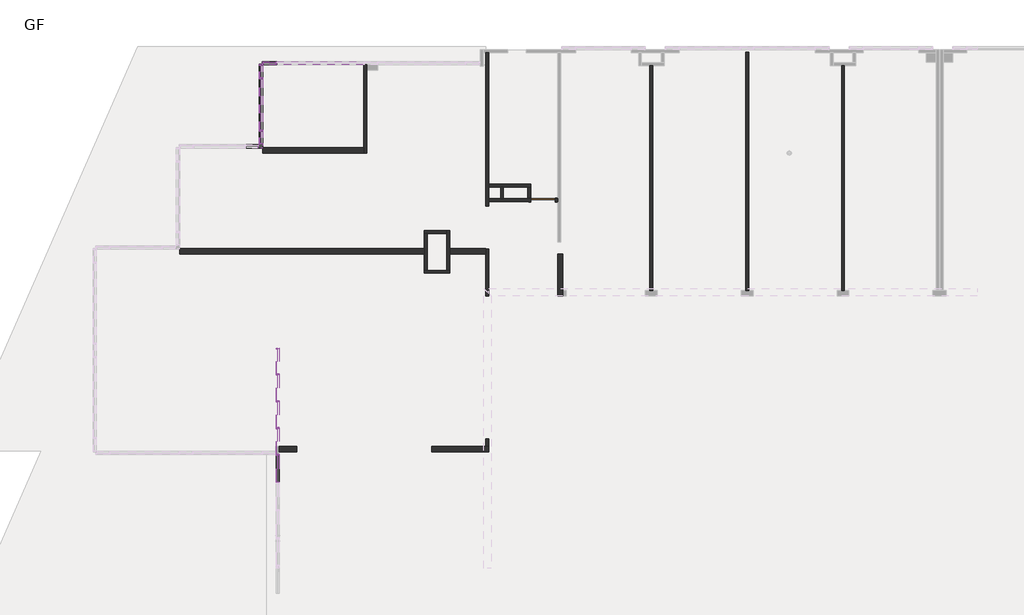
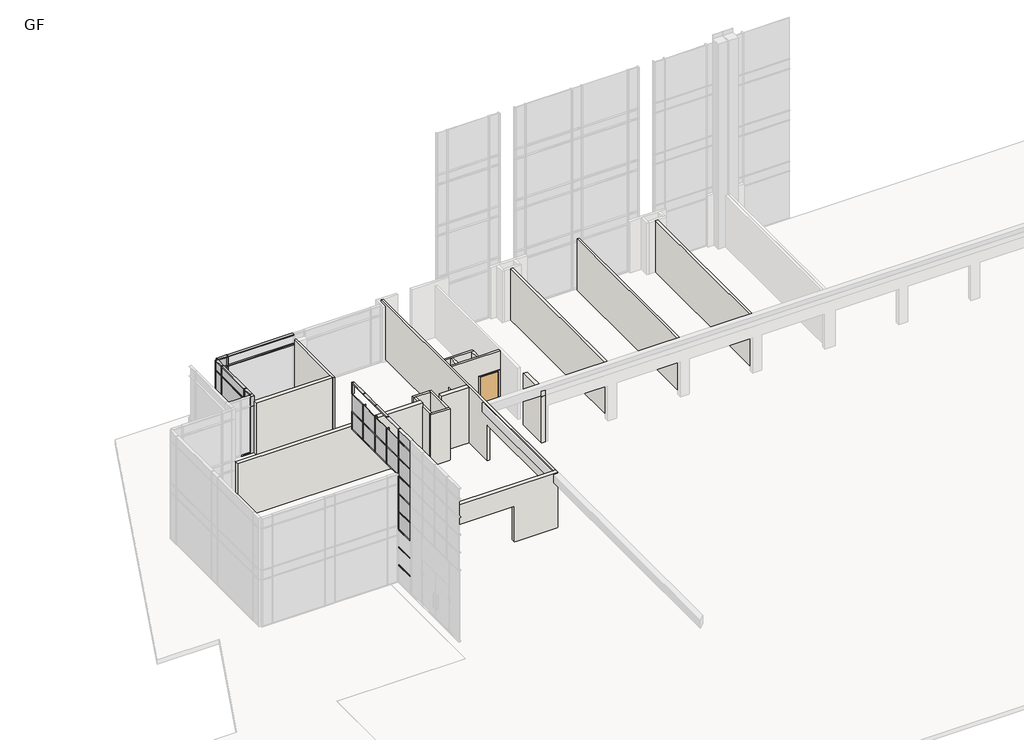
# One storey, part 15 of 23: 57 members, 22 plates, 18 walls, 1 door.
"""IFC4 building model written with IfcOpenShell, lengths in millimetres."""

from ifc_helpers import new_model, si_unit, frame, origin, place, context, project, spatial, polyline, outline, extrude, faceted_brep, transform, mapped, element, save
from components import m_single_flush_d_1200x2150_ee7a6381, l_corner_mullion_l_mullion_1_9cd6cbfc, l_corner_mullion_l_mullion_1_19861a08, rectangular_mullion_50_x_150mm_64d38db8, rectangular_mullion_50_x_150mm_0240cd64, rectangular_mullion_50_x_150mm_68b3818a, rectangular_mullion_50_x_150mm_9e0f1e24, rectangular_mullion_50_x_150mm_eae7d4bc, rectangular_mullion_50_x_150mm_b34d1ea9, rectangular_mullion_50_x_150mm_8786dd09, rectangular_mullion_50_x_150mm_edc7ebc1, rectangular_mullion_50_x_150mm_a5886fcf, rectangular_mullion_50_x_150mm_6588f46c, rectangular_mullion_50_x_150mm_d99dc9be, rectangular_mullion_50_x_150mm_0d3281e4, rectangular_mullion_50_x_150mm_a24dcaed, rectangular_mullion_50_x_150mm_3d2d9b82, rectangular_mullion_50_x_150mm_2a846207, rectangular_mullion_50_x_150mm_ab7a2645, v_corner_mullion_v_mullion_1_6526e4b7, v_corner_mullion_v_mullion_1_4652a198, system_panel_glazed_24812111, system_panel_glazed_93ed122c, system_panel_glazed_6b022301, system_panel_glazed_a7232eb8, system_panel_glazed_2ee935f9, system_panel_glazed_536b5d24, system_panel_glazed_4108eabc, system_panel_glazed_0d58ddbb, system_panel_glazed_52179baa, system_panel_glazed_4631d9b2, system_panel_glazed_062e6a91, system_panel_glazed_83790490

model = new_model("IFC4")

# Units and contexts
model_context = context("Model", 3, world=origin())
ifc_project = project(units=[si_unit("LENGTHUNIT", "METRE", prefix="MILLI")], contexts=[model_context])

# Site, building, storey
site = spatial("IfcSite", under=ifc_project)
building = spatial("IfcBuilding", under=site)
storey = spatial("IfcBuildingStorey", under=building, Name="GF", Elevation=900.0)

# Door
placement = place(None, origin())
m_single_flush_d_1200x2150_shape = m_single_flush_d_1200x2150_ee7a6381(model_context)
element("IfcDoor", 1, ObjectType="M_Single-Flush : D-1200x2150", at=placement, inside=storey, context=model_context, shape_type="MappedRepresentation", body=[
    mapped(m_single_flush_d_1200x2150_shape, transform((-18037.5865899, 13998.3851347, 900.0), x_axis=(1.0, 0.0, 0.0), y_axis=(0.0, 1.0, 0.0), z_axis=(0.0, 0.0, 1.0))),
])

# Members
l_corner_mullion_l_mullion_1_shape = l_corner_mullion_l_mullion_1_9cd6cbfc(model_context)
element("IfcMember", 2, ObjectType="L Corner Mullion : L Mullion 1", at=placement, inside=storey, context=model_context, shape_type="MappedRepresentation", body=[
    mapped(l_corner_mullion_l_mullion_1_shape, transform((-31612.5865899, 16597.3851347, 4750.0), x_axis=(0.0, -1.0, 0.0), y_axis=(1.0, 0.0, 0.0), z_axis=(0.0, 0.0, 1.0))),
])
l_corner_mullion_l_mullion_1_2_shape = l_corner_mullion_l_mullion_1_19861a08(model_context)
element("IfcMember", 3, ObjectType="L Corner Mullion : L Mullion 1", at=placement, inside=storey, context=model_context, shape_type="MappedRepresentation", body=[
    mapped(l_corner_mullion_l_mullion_1_2_shape, transform((-31612.5865899, 16597.3851347, 4075.0), x_axis=(0.0, -1.0, 0.0), y_axis=(1.0, 0.0, 0.0), z_axis=(0.0, 0.0, 1.0))),
])
rectangular_mullion_50_x_150mm_shape = rectangular_mullion_50_x_150mm_64d38db8(model_context)
element("IfcMember", 4, ObjectType="Rectangular Mullion : 50 x 150mm", at=placement, inside=storey, context=model_context, shape_type="MappedRepresentation", body=[
    mapped(rectangular_mullion_50_x_150mm_shape, transform((-31512.5865899, 20597.3851347, 4750.0), x_axis=(0.0, 0.0, 1.0), y_axis=(0.0, 1.0, 0.0), z_axis=(-1.0, 0.0, 0.0))),
])
element("IfcMember", 5, ObjectType="Rectangular Mullion : 50 x 150mm", at=placement, inside=storey, context=model_context, shape_type="MappedRepresentation", body=[
    mapped(rectangular_mullion_50_x_150mm_shape, transform((-30912.5865899, 20597.3851347, 900.0), x_axis=(0.0, 0.0, -1.0), y_axis=(0.0, 1.0, 0.0), z_axis=(1.0, 0.0, 0.0))),
])
element("IfcMember", 6, ObjectType="Rectangular Mullion : 50 x 150mm", at=placement, inside=storey, context=model_context, shape_type="MappedRepresentation", body=[
    mapped(rectangular_mullion_50_x_150mm_shape, transform((-31612.5865899, 20497.3851347, 4750.0), x_axis=(0.0, 0.0, 1.0), y_axis=(1.0, 0.0, 0.0), z_axis=(0.0, 1.0, 0.0))),
])
element("IfcMember", 7, ObjectType="Rectangular Mullion : 50 x 150mm", at=placement, inside=storey, context=model_context, shape_type="MappedRepresentation", body=[
    mapped(rectangular_mullion_50_x_150mm_shape, transform((-31612.5865899, 17322.3851347, 4750.0), x_axis=(0.0, 0.0, 1.0), y_axis=(1.0, 0.0, 0.0), z_axis=(0.0, 1.0, 0.0))),
])
element("IfcMember", 8, ObjectType="Rectangular Mullion : 50 x 150mm", at=placement, inside=storey, context=model_context, shape_type="MappedRepresentation", body=[
    mapped(rectangular_mullion_50_x_150mm_shape, transform((-31612.5865899, 16722.3851347, 900.0), x_axis=(0.0, 0.0, -1.0), y_axis=(1.0, 0.0, 0.0), z_axis=(0.0, -1.0, 0.0))),
])
element("IfcMember", 9, ObjectType="Rectangular Mullion : 50 x 150mm", at=placement, inside=storey, context=model_context, shape_type="MappedRepresentation", body=[
    mapped(rectangular_mullion_50_x_150mm_shape, transform((-31612.5865899, 19897.3851347, 900.0), x_axis=(0.0, 0.0, -1.0), y_axis=(1.0, 0.0, 0.0), z_axis=(0.0, -1.0, 0.0))),
])
rectangular_mullion_50_x_150mm_2_shape = rectangular_mullion_50_x_150mm_0240cd64(model_context)
element("IfcMember", 10, ObjectType="Rectangular Mullion : 50 x 150mm", at=placement, inside=storey, context=model_context, shape_type="MappedRepresentation", body=[
    mapped(rectangular_mullion_50_x_150mm_2_shape, transform((-31612.5865899, 19847.3851347, 4750.0), x_axis=(0.0, 0.0, 1.0), y_axis=(1.0, 0.0, 0.0), z_axis=(0.0, 1.0, 0.0))),
])
element("IfcMember", 11, ObjectType="Rectangular Mullion : 50 x 150mm", at=placement, inside=storey, context=model_context, shape_type="MappedRepresentation", body=[
    mapped(rectangular_mullion_50_x_150mm_2_shape, transform((-31612.5865899, 17372.3851347, 900.0), x_axis=(0.0, 0.0, -1.0), y_axis=(1.0, 0.0, 0.0), z_axis=(0.0, -1.0, 0.0))),
])
rectangular_mullion_50_x_150mm_3_shape = rectangular_mullion_50_x_150mm_68b3818a(model_context)
element("IfcMember", 12, ObjectType="Rectangular Mullion : 50 x 150mm", at=placement, inside=storey, context=model_context, shape_type="MappedRepresentation", body=[
    mapped(rectangular_mullion_50_x_150mm_3_shape, transform((-31612.5865899, 17322.3851347, 4075.0), x_axis=(0.0, 0.0, 1.0), y_axis=(1.0, 0.0, 0.0), z_axis=(0.0, 1.0, 0.0))),
])
element("IfcMember", 13, ObjectType="Rectangular Mullion : 50 x 150mm", at=placement, inside=storey, context=model_context, shape_type="MappedRepresentation", body=[
    mapped(rectangular_mullion_50_x_150mm_3_shape, transform((-31612.5865899, 20497.3851347, 4075.0), x_axis=(0.0, 0.0, 1.0), y_axis=(1.0, 0.0, 0.0), z_axis=(0.0, 1.0, 0.0))),
])
element("IfcMember", 14, ObjectType="Rectangular Mullion : 50 x 150mm", at=placement, inside=storey, context=model_context, shape_type="MappedRepresentation", body=[
    mapped(rectangular_mullion_50_x_150mm_shape, transform((-31737.5865899, 16597.3851347, 900.0), x_axis=(0.0, 0.0, -1.0), y_axis=(0.0, 1.0, 0.0), z_axis=(1.0, 0.0, 0.0))),
])
element("IfcMember", 15, ObjectType="Rectangular Mullion : 50 x 150mm", at=placement, inside=storey, context=model_context, shape_type="MappedRepresentation", body=[
    mapped(rectangular_mullion_50_x_150mm_3_shape, transform((-31512.5865899, 20597.3851347, 4075.0), x_axis=(0.0, 0.0, 1.0), y_axis=(0.0, 1.0, 0.0), z_axis=(-1.0, 0.0, 0.0))),
])
rectangular_mullion_50_x_150mm_4_shape = rectangular_mullion_50_x_150mm_9e0f1e24(model_context)
element("IfcMember", 16, ObjectType="Rectangular Mullion : 50 x 150mm", at=placement, inside=storey, context=model_context, shape_type="MappedRepresentation", body=[
    mapped(rectangular_mullion_50_x_150mm_4_shape, transform((-31612.5865899, 17347.3851347, 4075.0), x_axis=(0.0, 1.0, 0.0), y_axis=(1.0, 0.0, 0.0), z_axis=(0.0, 0.0, -1.0))),
])
element("IfcMember", 17, ObjectType="Rectangular Mullion : 50 x 150mm", at=placement, inside=storey, context=model_context, shape_type="MappedRepresentation", body=[
    mapped(rectangular_mullion_50_x_150mm_4_shape, transform((-31612.5865899, 19872.3851347, 4075.0), x_axis=(0.0, 1.0, 0.0), y_axis=(1.0, 0.0, 0.0), z_axis=(0.0, 0.0, -1.0))),
])
element("IfcMember", 18, ObjectType="Rectangular Mullion : 50 x 150mm", at=placement, inside=storey, context=model_context, shape_type="MappedRepresentation", body=[
    mapped(rectangular_mullion_50_x_150mm_4_shape, transform((-30887.5865899, 20597.3851347, 4075.0), x_axis=(-1.0, 0.0, 0.0), y_axis=(0.0, 1.0, 0.0), z_axis=(0.0, 0.0, -1.0))),
])
rectangular_mullion_50_x_150mm_5_shape = rectangular_mullion_50_x_150mm_eae7d4bc(model_context)
element("IfcMember", 19, ObjectType="Rectangular Mullion : 50 x 150mm", at=placement, inside=storey, context=model_context, shape_type="MappedRepresentation", body=[
    mapped(rectangular_mullion_50_x_150mm_5_shape, transform((-31612.5865899, 19872.3851347, 900.0), x_axis=(0.0, 1.0, 0.0), y_axis=(1.0, 0.0, 0.0), z_axis=(0.0, 0.0, -1.0))),
])
element("IfcMember", 20, ObjectType="Rectangular Mullion : 50 x 150mm", at=placement, inside=storey, context=model_context, shape_type="MappedRepresentation", body=[
    mapped(rectangular_mullion_50_x_150mm_5_shape, transform((-31612.5865899, 17347.3851347, 900.0), x_axis=(0.0, 1.0, 0.0), y_axis=(1.0, 0.0, 0.0), z_axis=(0.0, 0.0, -1.0))),
])
rectangular_mullion_50_x_150mm_6_shape = rectangular_mullion_50_x_150mm_b34d1ea9(model_context)
element("IfcMember", 21, ObjectType="Rectangular Mullion : 50 x 150mm", at=placement, inside=storey, context=model_context, shape_type="MappedRepresentation", body=[
    mapped(rectangular_mullion_50_x_150mm_6_shape, transform((-30862.5865899, 20597.3851347, 4750.0), x_axis=(0.0, 0.0, 1.0), y_axis=(0.0, 1.0, 0.0), z_axis=(-1.0, 0.0, 0.0))),
])
element("IfcMember", 22, ObjectType="Rectangular Mullion : 50 x 150mm", at=placement, inside=storey, context=model_context, shape_type="MappedRepresentation", body=[
    mapped(rectangular_mullion_50_x_150mm_5_shape, transform((-30887.5865899, 20597.3851347, 900.0), x_axis=(-1.0, 0.0, 0.0), y_axis=(0.0, 1.0, 0.0), z_axis=(0.0, 0.0, -1.0))),
])
rectangular_mullion_50_x_150mm_7_shape = rectangular_mullion_50_x_150mm_8786dd09(model_context)
element("IfcMember", 23, ObjectType="Rectangular Mullion : 50 x 150mm", at=placement, inside=storey, context=model_context, shape_type="MappedRepresentation", body=[
    mapped(rectangular_mullion_50_x_150mm_7_shape, transform((-30862.5865899, 20597.3851347, 4075.0), x_axis=(0.0, 0.0, 1.0), y_axis=(0.0, 1.0, 0.0), z_axis=(-1.0, 0.0, 0.0))),
])
rectangular_mullion_50_x_150mm_8_shape = rectangular_mullion_50_x_150mm_edc7ebc1(model_context)
element("IfcMember", 24, ObjectType="Rectangular Mullion : 50 x 150mm", at=placement, inside=storey, context=model_context, shape_type="MappedRepresentation", body=[
    mapped(rectangular_mullion_50_x_150mm_8_shape, transform((-31612.5865899, 19847.3851347, 4075.0), x_axis=(0.0, 0.0, 1.0), y_axis=(1.0, 0.0, 0.0), z_axis=(0.0, 1.0, 0.0))),
])
rectangular_mullion_50_x_150mm_9_shape = rectangular_mullion_50_x_150mm_a5886fcf(model_context)
element("IfcMember", 25, ObjectType="Rectangular Mullion : 50 x 150mm", at=placement, inside=storey, context=model_context, shape_type="MappedRepresentation", body=[
    mapped(rectangular_mullion_50_x_150mm_9_shape, transform((-30812.5865899, 1697.3851347, 9300.0), x_axis=(0.0, 0.0, 1.0), y_axis=(1.0, 0.0, 0.0), z_axis=(0.0, 1.0, 0.0))),
])
element("IfcMember", 26, ObjectType="Rectangular Mullion : 50 x 150mm", at=placement, inside=storey, context=model_context, shape_type="MappedRepresentation", body=[
    mapped(rectangular_mullion_50_x_150mm_9_shape, transform((-30812.5865899, 1697.3851347, 10500.0), x_axis=(0.0, 0.0, 1.0), y_axis=(1.0, 0.0, 0.0), z_axis=(0.0, 1.0, 0.0))),
])
element("IfcMember", 27, ObjectType="Rectangular Mullion : 50 x 150mm", at=placement, inside=storey, context=model_context, shape_type="MappedRepresentation", body=[
    mapped(rectangular_mullion_50_x_150mm_9_shape, transform((-30812.5865899, 1697.3851347, 3300.0), x_axis=(0.0, 0.0, 1.0), y_axis=(1.0, 0.0, 0.0), z_axis=(0.0, 1.0, 0.0))),
])
element("IfcMember", 28, ObjectType="Rectangular Mullion : 50 x 150mm", at=placement, inside=storey, context=model_context, shape_type="MappedRepresentation", body=[
    mapped(rectangular_mullion_50_x_150mm_9_shape, transform((-30812.5865899, 1697.3851347, 2100.0), x_axis=(0.0, 0.0, 1.0), y_axis=(1.0, 0.0, 0.0), z_axis=(0.0, 1.0, 0.0))),
])
element("IfcMember", 29, ObjectType="Rectangular Mullion : 50 x 150mm", at=placement, inside=storey, context=model_context, shape_type="MappedRepresentation", body=[
    mapped(rectangular_mullion_50_x_150mm_9_shape, transform((-30812.5865899, 1697.3851347, 5700.0), x_axis=(0.0, 0.0, 1.0), y_axis=(1.0, 0.0, 0.0), z_axis=(0.0, 1.0, 0.0))),
])
element("IfcMember", 30, ObjectType="Rectangular Mullion : 50 x 150mm", at=placement, inside=storey, context=model_context, shape_type="MappedRepresentation", body=[
    mapped(rectangular_mullion_50_x_150mm_9_shape, transform((-30812.5865899, 1697.3851347, 6900.0), x_axis=(0.0, 0.0, 1.0), y_axis=(1.0, 0.0, 0.0), z_axis=(0.0, 1.0, 0.0))),
])
element("IfcMember", 31, ObjectType="Rectangular Mullion : 50 x 150mm", at=placement, inside=storey, context=model_context, shape_type="MappedRepresentation", body=[
    mapped(rectangular_mullion_50_x_150mm_9_shape, transform((-30812.5865899, 1697.3851347, 8100.0), x_axis=(0.0, 0.0, 1.0), y_axis=(1.0, 0.0, 0.0), z_axis=(0.0, 1.0, 0.0))),
])
element("IfcMember", 32, ObjectType="Rectangular Mullion : 50 x 150mm", at=placement, inside=storey, context=model_context, shape_type="MappedRepresentation", body=[
    mapped(rectangular_mullion_50_x_150mm_9_shape, transform((-30812.5865899, 1697.3851347, 4500.0), x_axis=(0.0, 0.0, 1.0), y_axis=(1.0, 0.0, 0.0), z_axis=(0.0, 1.0, 0.0))),
])
rectangular_mullion_50_x_150mm_10_shape = rectangular_mullion_50_x_150mm_6588f46c(model_context)
element("IfcMember", 33, ObjectType="Rectangular Mullion : 50 x 150mm", at=placement, inside=storey, context=model_context, shape_type="MappedRepresentation", body=[
    mapped(rectangular_mullion_50_x_150mm_10_shape, transform((-30812.5865899, 1747.3851347, 4500.0), x_axis=(0.0, 1.0, 0.0), y_axis=(1.0, 0.0, 0.0), z_axis=(0.0, 0.0, -1.0))),
])
element("IfcMember", 34, ObjectType="Rectangular Mullion : 50 x 150mm", at=placement, inside=storey, context=model_context, shape_type="MappedRepresentation", body=[
    mapped(rectangular_mullion_50_x_150mm_10_shape, transform((-30812.5865899, 1747.3851347, 5700.0), x_axis=(0.0, 1.0, 0.0), y_axis=(1.0, 0.0, 0.0), z_axis=(0.0, 0.0, -1.0))),
])
element("IfcMember", 35, ObjectType="Rectangular Mullion : 50 x 150mm", at=placement, inside=storey, context=model_context, shape_type="MappedRepresentation", body=[
    mapped(rectangular_mullion_50_x_150mm_10_shape, transform((-30812.5865899, 1747.3851347, 6900.0), x_axis=(0.0, 1.0, 0.0), y_axis=(1.0, 0.0, 0.0), z_axis=(0.0, 0.0, -1.0))),
])
element("IfcMember", 36, ObjectType="Rectangular Mullion : 50 x 150mm", at=placement, inside=storey, context=model_context, shape_type="MappedRepresentation", body=[
    mapped(rectangular_mullion_50_x_150mm_10_shape, transform((-30812.5865899, 1747.3851347, 8100.0), x_axis=(0.0, 1.0, 0.0), y_axis=(1.0, 0.0, 0.0), z_axis=(0.0, 0.0, -1.0))),
])
element("IfcMember", 37, ObjectType="Rectangular Mullion : 50 x 150mm", at=placement, inside=storey, context=model_context, shape_type="MappedRepresentation", body=[
    mapped(rectangular_mullion_50_x_150mm_10_shape, transform((-30812.5865899, 1747.3851347, 9300.0), x_axis=(0.0, 1.0, 0.0), y_axis=(1.0, 0.0, 0.0), z_axis=(0.0, 0.0, -1.0))),
])
rectangular_mullion_50_x_150mm_11_shape = rectangular_mullion_50_x_150mm_d99dc9be(model_context)
element("IfcMember", 38, ObjectType="Rectangular Mullion : 50 x 150mm", at=placement, inside=storey, context=model_context, shape_type="MappedRepresentation", body=[
    mapped(rectangular_mullion_50_x_150mm_11_shape, transform((-30812.5865899, 5606.2601348, 8100.0), x_axis=(0.0, -1.0, 0.0), y_axis=(-1.0, 0.0, 0.0), z_axis=(0.0, 0.0, -1.0))),
])
element("IfcMember", 39, ObjectType="Rectangular Mullion : 50 x 150mm", at=placement, inside=storey, context=model_context, shape_type="MappedRepresentation", body=[
    mapped(rectangular_mullion_50_x_150mm_11_shape, transform((-30812.5865899, 4311.6351348, 8100.0), x_axis=(0.0, -1.0, 0.0), y_axis=(-1.0, 0.0, 0.0), z_axis=(0.0, 0.0, -1.0))),
])
element("IfcMember", 40, ObjectType="Rectangular Mullion : 50 x 150mm", at=placement, inside=storey, context=model_context, shape_type="MappedRepresentation", body=[
    mapped(rectangular_mullion_50_x_150mm_11_shape, transform((-30812.5865899, 3017.0101347, 8100.0), x_axis=(0.0, -1.0, 0.0), y_axis=(-1.0, 0.0, 0.0), z_axis=(0.0, 0.0, -1.0))),
])
element("IfcMember", 41, ObjectType="Rectangular Mullion : 50 x 150mm", at=placement, inside=storey, context=model_context, shape_type="MappedRepresentation", body=[
    mapped(rectangular_mullion_50_x_150mm_10_shape, transform((-30812.5865899, 6875.8851348, 9300.0), x_axis=(0.0, 1.0, 0.0), y_axis=(-1.0, 0.0, 0.0), z_axis=(0.0, 0.0, 1.0))),
])
element("IfcMember", 42, ObjectType="Rectangular Mullion : 50 x 150mm", at=placement, inside=storey, context=model_context, shape_type="MappedRepresentation", body=[
    mapped(rectangular_mullion_50_x_150mm_11_shape, transform((-30812.5865899, 5606.2601348, 9300.0), x_axis=(0.0, -1.0, 0.0), y_axis=(-1.0, 0.0, 0.0), z_axis=(0.0, 0.0, -1.0))),
])
element("IfcMember", 43, ObjectType="Rectangular Mullion : 50 x 150mm", at=placement, inside=storey, context=model_context, shape_type="MappedRepresentation", body=[
    mapped(rectangular_mullion_50_x_150mm_11_shape, transform((-30812.5865899, 4311.6351348, 9300.0), x_axis=(0.0, -1.0, 0.0), y_axis=(-1.0, 0.0, 0.0), z_axis=(0.0, 0.0, -1.0))),
])
element("IfcMember", 44, ObjectType="Rectangular Mullion : 50 x 150mm", at=placement, inside=storey, context=model_context, shape_type="MappedRepresentation", body=[
    mapped(rectangular_mullion_50_x_150mm_11_shape, transform((-30812.5865899, 3017.0101347, 9300.0), x_axis=(0.0, -1.0, 0.0), y_axis=(-1.0, 0.0, 0.0), z_axis=(0.0, 0.0, -1.0))),
])
rectangular_mullion_50_x_150mm_12_shape = rectangular_mullion_50_x_150mm_0d3281e4(model_context)
element("IfcMember", 45, ObjectType="Rectangular Mullion : 50 x 150mm", at=placement, inside=storey, context=model_context, shape_type="MappedRepresentation", body=[
    mapped(rectangular_mullion_50_x_150mm_12_shape, transform((-30812.5865899, 6875.8851348, 11250.0), x_axis=(0.0, 1.0, 0.0), y_axis=(-1.0, 0.0, 0.0), z_axis=(0.0, 0.0, 1.0))),
])
element("IfcMember", 46, ObjectType="Rectangular Mullion : 50 x 150mm", at=placement, inside=storey, context=model_context, shape_type="MappedRepresentation", body=[
    mapped(rectangular_mullion_50_x_150mm_12_shape, transform((-30812.5865899, 1747.3851347, 10500.0), x_axis=(0.0, 1.0, 0.0), y_axis=(1.0, 0.0, 0.0), z_axis=(0.0, 0.0, -1.0))),
])
rectangular_mullion_50_x_150mm_13_shape = rectangular_mullion_50_x_150mm_a24dcaed(model_context)
element("IfcMember", 47, ObjectType="Rectangular Mullion : 50 x 150mm", at=placement, inside=storey, context=model_context, shape_type="MappedRepresentation", body=[
    mapped(rectangular_mullion_50_x_150mm_13_shape, transform((-30812.5865899, 4336.6351348, 11250.0), x_axis=(0.0, 0.0, 1.0), y_axis=(-1.0, 0.0, 0.0), z_axis=(0.0, -1.0, 0.0))),
])
element("IfcMember", 48, ObjectType="Rectangular Mullion : 50 x 150mm", at=placement, inside=storey, context=model_context, shape_type="MappedRepresentation", body=[
    mapped(rectangular_mullion_50_x_150mm_13_shape, transform((-30812.5865899, 3042.0101347, 11250.0), x_axis=(0.0, 0.0, 1.0), y_axis=(-1.0, 0.0, 0.0), z_axis=(0.0, -1.0, 0.0))),
])
rectangular_mullion_50_x_150mm_14_shape = rectangular_mullion_50_x_150mm_3d2d9b82(model_context)
element("IfcMember", 49, ObjectType="Rectangular Mullion : 50 x 150mm", at=placement, inside=storey, context=model_context, shape_type="MappedRepresentation", body=[
    mapped(rectangular_mullion_50_x_150mm_14_shape, transform((-30812.5865899, 6825.8851348, 8100.0), x_axis=(0.0, 0.0, -1.0), y_axis=(-1.0, 0.0, 0.0), z_axis=(0.0, 1.0, 0.0))),
])
element("IfcMember", 50, ObjectType="Rectangular Mullion : 50 x 150mm", at=placement, inside=storey, context=model_context, shape_type="MappedRepresentation", body=[
    mapped(rectangular_mullion_50_x_150mm_14_shape, transform((-30812.5865899, 5631.2601348, 11250.0), x_axis=(0.0, 0.0, 1.0), y_axis=(-1.0, 0.0, 0.0), z_axis=(0.0, -1.0, 0.0))),
])
element("IfcMember", 51, ObjectType="Rectangular Mullion : 50 x 150mm", at=placement, inside=storey, context=model_context, shape_type="MappedRepresentation", body=[
    mapped(rectangular_mullion_50_x_150mm_13_shape, transform((-30812.5865899, 5581.2601348, 8100.0), x_axis=(0.0, 0.0, -1.0), y_axis=(-1.0, 0.0, 0.0), z_axis=(0.0, 1.0, 0.0))),
])
element("IfcMember", 52, ObjectType="Rectangular Mullion : 50 x 150mm", at=placement, inside=storey, context=model_context, shape_type="MappedRepresentation", body=[
    mapped(rectangular_mullion_50_x_150mm_13_shape, transform((-30812.5865899, 4286.6351348, 8100.0), x_axis=(0.0, 0.0, -1.0), y_axis=(-1.0, 0.0, 0.0), z_axis=(0.0, 1.0, 0.0))),
])
element("IfcMember", 53, ObjectType="Rectangular Mullion : 50 x 150mm", at=placement, inside=storey, context=model_context, shape_type="MappedRepresentation", body=[
    mapped(rectangular_mullion_50_x_150mm_13_shape, transform((-30812.5865899, 2992.0101347, 8100.0), x_axis=(0.0, 0.0, -1.0), y_axis=(-1.0, 0.0, 0.0), z_axis=(0.0, 1.0, 0.0))),
])
rectangular_mullion_50_x_150mm_15_shape = rectangular_mullion_50_x_150mm_2a846207(model_context)
element("IfcMember", 54, ObjectType="Rectangular Mullion : 50 x 150mm", at=placement, inside=storey, context=model_context, shape_type="MappedRepresentation", body=[
    mapped(rectangular_mullion_50_x_150mm_15_shape, transform((-30812.5865899, 4336.6351348, 9300.0), x_axis=(0.0, 0.0, 1.0), y_axis=(-1.0, 0.0, 0.0), z_axis=(0.0, -1.0, 0.0))),
])
element("IfcMember", 55, ObjectType="Rectangular Mullion : 50 x 150mm", at=placement, inside=storey, context=model_context, shape_type="MappedRepresentation", body=[
    mapped(rectangular_mullion_50_x_150mm_15_shape, transform((-30812.5865899, 3042.0101347, 9300.0), x_axis=(0.0, 0.0, 1.0), y_axis=(-1.0, 0.0, 0.0), z_axis=(0.0, -1.0, 0.0))),
])
rectangular_mullion_50_x_150mm_16_shape = rectangular_mullion_50_x_150mm_ab7a2645(model_context)
element("IfcMember", 56, ObjectType="Rectangular Mullion : 50 x 150mm", at=placement, inside=storey, context=model_context, shape_type="MappedRepresentation", body=[
    mapped(rectangular_mullion_50_x_150mm_16_shape, transform((-30812.5865899, 5631.2601348, 9300.0), x_axis=(0.0, 0.0, 1.0), y_axis=(-1.0, 0.0, 0.0), z_axis=(0.0, -1.0, 0.0))),
])
v_corner_mullion_v_mullion_1_shape = v_corner_mullion_v_mullion_1_6526e4b7(model_context)
element("IfcMember", 57, ObjectType="V Corner Mullion : V Mullion 1", at=placement, inside=storey, context=model_context, shape_type="MappedRepresentation", body=[
    mapped(v_corner_mullion_v_mullion_1_shape, transform((-31612.5865899, 20597.3851347, 900.0), x_axis=(-1.0, 0.0, 0.0), y_axis=(0.0, 1.0, 0.0), z_axis=(0.0, 0.0, -1.0))),
])
v_corner_mullion_v_mullion_1_2_shape = v_corner_mullion_v_mullion_1_4652a198(model_context)
element("IfcMember", 58, ObjectType="V Corner Mullion : V Mullion 1", at=placement, inside=storey, context=model_context, shape_type="MappedRepresentation", body=[
    mapped(v_corner_mullion_v_mullion_1_2_shape, transform((-31612.5865899, 20597.3851347, 4075.0), x_axis=(-1.0, 0.0, 0.0), y_axis=(0.0, 1.0, 0.0), z_axis=(0.0, 0.0, -1.0))),
])

# Plates
system_panel_glazed_shape = system_panel_glazed_24812111(model_context)
element("IfcPlate", 59, ObjectType="System Panel : Glazed", at=placement, inside=storey, context=model_context, shape_type="MappedRepresentation", body=[
    mapped(system_panel_glazed_shape, transform((-31612.5865899, 17022.3851347, 4100.0), x_axis=(0.0, 1.0, 0.0), y_axis=(-1.0, 0.0, 0.0), z_axis=(0.0, 0.0, 1.0))),
])
element("IfcPlate", 60, ObjectType="System Panel : Glazed", at=placement, inside=storey, context=model_context, shape_type="MappedRepresentation", body=[
    mapped(system_panel_glazed_shape, transform((-31612.5865899, 20197.3851347, 4100.0), x_axis=(0.0, 1.0, 0.0), y_axis=(-1.0, 0.0, 0.0), z_axis=(0.0, 0.0, 1.0))),
])
system_panel_glazed_2_shape = system_panel_glazed_93ed122c(model_context)
element("IfcPlate", 61, ObjectType="System Panel : Glazed", at=placement, inside=storey, context=model_context, shape_type="MappedRepresentation", body=[
    mapped(system_panel_glazed_2_shape, transform((-31212.5865899, 20597.3851347, 4100.0), x_axis=(-1.0, 0.0, 0.0), y_axis=(0.0, -1.0, 0.0), z_axis=(0.0, 0.0, 1.0))),
])
system_panel_glazed_3_shape = system_panel_glazed_6b022301(model_context)
element("IfcPlate", 62, ObjectType="System Panel : Glazed", at=placement, inside=storey, context=model_context, shape_type="MappedRepresentation", body=[
    mapped(system_panel_glazed_3_shape, transform((-31612.5865899, 18609.8851347, 4100.0), x_axis=(0.0, 1.0, 0.0), y_axis=(-1.0, 0.0, 0.0), z_axis=(0.0, 0.0, 1.0))),
])
system_panel_glazed_4_shape = system_panel_glazed_a7232eb8(model_context)
element("IfcPlate", 63, ObjectType="System Panel : Glazed", at=placement, inside=storey, context=model_context, shape_type="MappedRepresentation", body=[
    mapped(system_panel_glazed_4_shape, transform((-31612.5865899, 17022.3851347, 950.0), x_axis=(0.0, 1.0, 0.0), y_axis=(-1.0, 0.0, 0.0), z_axis=(0.0, 0.0, 1.0))),
])
element("IfcPlate", 64, ObjectType="System Panel : Glazed", at=placement, inside=storey, context=model_context, shape_type="MappedRepresentation", body=[
    mapped(system_panel_glazed_4_shape, transform((-31612.5865899, 20197.3851347, 950.0), x_axis=(0.0, 1.0, 0.0), y_axis=(-1.0, 0.0, 0.0), z_axis=(0.0, 0.0, 1.0))),
])
system_panel_glazed_5_shape = system_panel_glazed_2ee935f9(model_context)
element("IfcPlate", 65, ObjectType="System Panel : Glazed", at=placement, inside=storey, context=model_context, shape_type="MappedRepresentation", body=[
    mapped(system_panel_glazed_5_shape, transform((-31212.5865899, 20597.3851347, 950.0), x_axis=(-1.0, 0.0, 0.0), y_axis=(0.0, -1.0, 0.0), z_axis=(0.0, 0.0, 1.0))),
])
system_panel_glazed_6_shape = system_panel_glazed_536b5d24(model_context)
element("IfcPlate", 66, ObjectType="System Panel : Glazed", at=placement, inside=storey, context=model_context, shape_type="MappedRepresentation", body=[
    mapped(system_panel_glazed_6_shape, transform((-31612.5865899, 18609.8851347, 950.0), x_axis=(0.0, 1.0, 0.0), y_axis=(-1.0, 0.0, 0.0), z_axis=(0.0, 0.0, 1.0))),
])
system_panel_glazed_7_shape = system_panel_glazed_4108eabc(model_context)
element("IfcPlate", 67, ObjectType="System Panel : Glazed", at=placement, inside=storey, context=model_context, shape_type="MappedRepresentation", body=[
    mapped(system_panel_glazed_7_shape, transform((-30812.5865899, 1054.0518014, 4525.0), x_axis=(0.0, 1.0, 0.0), y_axis=(-1.0, 0.0, 0.0), z_axis=(0.0, 0.0, 1.0))),
])
element("IfcPlate", 68, ObjectType="System Panel : Glazed", at=placement, inside=storey, context=model_context, shape_type="MappedRepresentation", body=[
    mapped(system_panel_glazed_7_shape, transform((-30812.5865899, 1054.0518014, 5725.0), x_axis=(0.0, 1.0, 0.0), y_axis=(-1.0, 0.0, 0.0), z_axis=(0.0, 0.0, 1.0))),
])
element("IfcPlate", 69, ObjectType="System Panel : Glazed", at=placement, inside=storey, context=model_context, shape_type="MappedRepresentation", body=[
    mapped(system_panel_glazed_7_shape, transform((-30812.5865899, 1054.0518014, 6925.0), x_axis=(0.0, 1.0, 0.0), y_axis=(-1.0, 0.0, 0.0), z_axis=(0.0, 0.0, 1.0))),
])
element("IfcPlate", 70, ObjectType="System Panel : Glazed", at=placement, inside=storey, context=model_context, shape_type="MappedRepresentation", body=[
    mapped(system_panel_glazed_7_shape, transform((-30812.5865899, 1054.0518014, 8125.0), x_axis=(0.0, 1.0, 0.0), y_axis=(-1.0, 0.0, 0.0), z_axis=(0.0, 0.0, 1.0))),
])
element("IfcPlate", 71, ObjectType="System Panel : Glazed", at=placement, inside=storey, context=model_context, shape_type="MappedRepresentation", body=[
    mapped(system_panel_glazed_7_shape, transform((-30812.5865899, 1054.0518014, 9325.0), x_axis=(0.0, 1.0, 0.0), y_axis=(-1.0, 0.0, 0.0), z_axis=(0.0, 0.0, 1.0))),
])
system_panel_glazed_8_shape = system_panel_glazed_0d58ddbb(model_context)
element("IfcPlate", 72, ObjectType="System Panel : Glazed", at=placement, inside=storey, context=model_context, shape_type="MappedRepresentation", body=[
    mapped(system_panel_glazed_8_shape, transform((-30812.5865899, 1054.0518014, 10525.0), x_axis=(0.0, 1.0, 0.0), y_axis=(-1.0, 0.0, 0.0), z_axis=(0.0, 0.0, 1.0))),
])
system_panel_glazed_9_shape = system_panel_glazed_52179baa(model_context)
element("IfcPlate", 73, ObjectType="System Panel : Glazed", at=placement, inside=storey, context=model_context, shape_type="MappedRepresentation", body=[
    mapped(system_panel_glazed_9_shape, transform((-30812.5865899, 6228.5726348, 8150.0), x_axis=(0.0, -1.0, 0.0), y_axis=(1.0, 0.0, 0.0), z_axis=(0.0, 0.0, 1.0))),
])
system_panel_glazed_10_shape = system_panel_glazed_4631d9b2(model_context)
element("IfcPlate", 74, ObjectType="System Panel : Glazed", at=placement, inside=storey, context=model_context, shape_type="MappedRepresentation", body=[
    mapped(system_panel_glazed_10_shape, transform((-30812.5865899, 6228.5726348, 9325.0), x_axis=(0.0, -1.0, 0.0), y_axis=(1.0, 0.0, 0.0), z_axis=(0.0, 0.0, 1.0))),
])
system_panel_glazed_11_shape = system_panel_glazed_062e6a91(model_context)
element("IfcPlate", 75, ObjectType="System Panel : Glazed", at=placement, inside=storey, context=model_context, shape_type="MappedRepresentation", body=[
    mapped(system_panel_glazed_11_shape, transform((-30812.5865899, 4958.9476348, 8150.0), x_axis=(0.0, -1.0, 0.0), y_axis=(1.0, 0.0, 0.0), z_axis=(0.0, 0.0, 1.0))),
])
element("IfcPlate", 76, ObjectType="System Panel : Glazed", at=placement, inside=storey, context=model_context, shape_type="MappedRepresentation", body=[
    mapped(system_panel_glazed_11_shape, transform((-30812.5865899, 3664.3226348, 8150.0), x_axis=(0.0, -1.0, 0.0), y_axis=(1.0, 0.0, 0.0), z_axis=(0.0, 0.0, 1.0))),
])
element("IfcPlate", 77, ObjectType="System Panel : Glazed", at=placement, inside=storey, context=model_context, shape_type="MappedRepresentation", body=[
    mapped(system_panel_glazed_11_shape, transform((-30812.5865899, 2369.6976347, 8150.0), x_axis=(0.0, -1.0, 0.0), y_axis=(1.0, 0.0, 0.0), z_axis=(0.0, 0.0, 1.0))),
])
system_panel_glazed_12_shape = system_panel_glazed_83790490(model_context)
element("IfcPlate", 78, ObjectType="System Panel : Glazed", at=placement, inside=storey, context=model_context, shape_type="MappedRepresentation", body=[
    mapped(system_panel_glazed_12_shape, transform((-30812.5865899, 4958.9476348, 9325.0), x_axis=(0.0, -1.0, 0.0), y_axis=(1.0, 0.0, 0.0), z_axis=(0.0, 0.0, 1.0))),
])
element("IfcPlate", 79, ObjectType="System Panel : Glazed", at=placement, inside=storey, context=model_context, shape_type="MappedRepresentation", body=[
    mapped(system_panel_glazed_12_shape, transform((-30812.5865899, 3664.3226348, 9325.0), x_axis=(0.0, -1.0, 0.0), y_axis=(1.0, 0.0, 0.0), z_axis=(0.0, 0.0, 1.0))),
])
element("IfcPlate", 80, ObjectType="System Panel : Glazed", at=placement, inside=storey, context=model_context, shape_type="MappedRepresentation", body=[
    mapped(system_panel_glazed_12_shape, transform((-30812.5865899, 2369.6976347, 9325.0), x_axis=(0.0, -1.0, 0.0), y_axis=(1.0, 0.0, 0.0), z_axis=(0.0, 0.0, 1.0))),
])

# Walls
element("IfcWall", 81, ObjectType="wall-115", at=placement, inside=storey, context=model_context, shape_type="SweptSolid", body=[
    extrude(outline(polyline([(-3665.0865899, 9642.3851347), (-3665.0865899, 20487.3851347), (-3523.0865899, 20487.3851347), (-3523.0865899, 9642.3851347), (-3665.0865899, 9642.3851347)])), frame((0.0, 0.0, 900.0), z_axis=(0.0, 0.0, 1.0), x_axis=(1.0, 0.0, 0.0)), (0.0, 0.0, 1.0), 3475.0),
])
element("IfcWall", 82, ObjectType="wall-115", at=placement, inside=storey, context=model_context, shape_type="SweptSolid", body=[
    extrude(outline(polyline([(-8280.0865899, 9642.3851347), (-8280.0865899, 21132.3851347), (-8138.0865899, 21132.3851347), (-8138.0865899, 9642.3851347), (-8280.0865899, 9642.3851347)])), frame((0.0, 0.0, 900.0), z_axis=(0.0, 0.0, 1.0), x_axis=(1.0, 0.0, 0.0)), (0.0, 0.0, 1.0), 3475.0),
])
element("IfcWall", 83, ObjectType="wall-115", at=placement, inside=storey, context=model_context, shape_type="SweptSolid", body=[
    extrude(outline(polyline([(-12895.0865899, 9642.3851347), (-12895.0865899, 20487.3851347), (-12753.0865899, 20487.3851347), (-12753.0865899, 9642.3851347), (-12895.0865899, 9642.3851347)])), frame((0.0, 0.0, 900.0), z_axis=(0.0, 0.0, 1.0), x_axis=(1.0, 0.0, 0.0)), (0.0, 0.0, 1.0), 3475.0),
])
element("IfcWall", 84, ObjectType="wall-115", at=placement, inside=storey, context=model_context, shape_type="Brep", body=[
    faceted_brep([(-26525.5865899, 16277.3851347, 900.0), (-26525.5865899, 20277.3851347, 900.0), (-26525.5865899, 20534.3851347, 900.0), (-26525.5865899, 20534.3851347, 4375.0), (-26525.5865899, 20277.3851347, 4375.0), (-26525.5865899, 16277.3851347, 4375.0), (-26667.5865899, 16277.3851347, 900.0), (-26667.5865899, 16277.3851347, 4375.0), (-26667.5865899, 16534.3851347, 4375.0), (-26667.5865899, 20534.3851347, 4375.0), (-26667.5865899, 20534.3851347, 900.0), (-26667.5865899, 16534.3851347, 900.0)], [[[0, 1, 2, 3, 4, 5]], [[6, 7, 8, 9, 10, 11]], [[2, 1, 0, 6, 11, 10]], [[0, 5, 7, 6]], [[3, 2, 10, 9]], [[5, 4, 3, 9, 8, 7]]]),
])
element("IfcWall", 85, ObjectType="wall-115", at=placement, inside=storey, context=model_context, shape_type="Brep", body=[
    faceted_brep([(-20640.5865899, 13729.2306046, 3300.0), (-20640.5865899, 13729.2306046, 900.0), (-20640.5865899, 13927.3851347, 900.0), (-20640.5865899, 14069.3851347, 900.0), (-20640.5865899, 14645.3851347, 900.0), (-20640.5865899, 14787.3851347, 900.0), (-20640.5865899, 21117.3851347, 900.0), (-20640.5865899, 21117.3851347, 4650.0), (-20640.5865899, 2142.3851347, 4650.0), (-20640.5865899, 2142.3851347, 900.0), (-20640.5865899, 2497.3851348, 900.0), (-20640.5865899, 2497.3851348, 3300.0), (-20640.5865899, 9397.3851348, 3300.0), (-20640.5865899, 9397.3851348, 900.0), (-20640.5865899, 11647.3851347, 900.0), (-20640.5865899, 11647.3851347, 3300.0), (-20782.5865899, 21117.3851347, 900.0), (-20782.5865899, 13729.2306046, 900.0), (-20782.5865899, 13729.2306046, 3300.0), (-20782.5865899, 11647.3851347, 3300.0), (-20782.5865899, 11647.3851347, 900.0), (-20782.5865899, 11405.3851348, 900.0), (-20782.5865899, 9397.3851348, 900.0), (-20782.5865899, 9397.3851348, 3300.0), (-20782.5865899, 2497.3851348, 3300.0), (-20782.5865899, 2497.3851348, 900.0), (-20782.5865899, 2142.3851347, 900.0), (-20782.5865899, 2142.3851347, 4650.0), (-20782.5865899, 11405.3851348, 4650.0), (-20782.5865899, 11662.3851348, 4650.0), (-20782.5865899, 21117.3851347, 4650.0)], [[[0, 1, 2, 3, 4, 5, 6, 7, 8, 9, 10, 11, 12, 13, 14, 15]], [[16, 17, 18, 19, 20, 21, 22, 23, 24, 25, 26, 27, 28, 29, 30]], [[9, 26, 25, 10]], [[6, 5, 4, 3, 2, 1, 17, 16]], [[14, 13, 22, 21, 20]], [[8, 7, 30, 29, 28, 27]], [[9, 8, 27, 26]], [[7, 6, 16, 30]], [[11, 24, 23, 12]], [[12, 23, 22, 13]], [[24, 11, 10, 25]], [[19, 18, 0, 15]], [[20, 19, 15, 14]], [[18, 17, 1, 0]]]),
])
element("IfcWall", 86, ObjectType="wall-115", at=placement, inside=storey, context=model_context, shape_type="Brep", body=[
    faceted_brep([(-22525.5865898, 10624.4013413, 900.0), (-22667.5865898, 10624.4013413, 900.0), (-23605.5865898, 10624.4013413, 900.0), (-23747.5865898, 10624.4013413, 900.0), (-23747.5865898, 10624.4013413, 4375.0), (-23605.5865898, 10624.4013413, 4375.0), (-22667.5865898, 10624.4013413, 4375.0), (-22525.5865898, 10624.4013413, 4375.0), (-22525.5865898, 10482.4013413, 900.0), (-22525.5865898, 10482.4013413, 4375.0), (-23747.5865898, 10482.4013413, 4375.0), (-23747.5865898, 10482.4013413, 900.0)], [[[0, 1, 2, 3, 4, 5, 6, 7]], [[8, 9, 10, 11]], [[3, 2, 1, 0, 8, 11]], [[4, 3, 11, 10]], [[0, 7, 9, 8]], [[7, 6, 5, 4, 10, 9]]]),
])
element("IfcWall", 87, ObjectType="wall-115", at=placement, inside=storey, context=model_context, shape_type="Brep", body=[
    faceted_brep([(-23605.5865898, 10624.4013413, 900.0), (-23605.5865898, 12397.3851348, 900.0), (-23605.5865898, 12397.3851348, 4375.0), (-23605.5865898, 10624.4013413, 4375.0), (-23747.5865898, 10624.4013413, 900.0), (-23747.5865898, 10624.4013413, 4375.0), (-23747.5865898, 12397.3851348, 4375.0), (-23747.5865898, 12397.3851348, 900.0), (-23747.5865898, 11662.3851348, 900.0), (-23747.5865898, 11405.3851348, 900.0)], [[[0, 1, 2, 3]], [[4, 5, 6, 7, 8, 9]], [[1, 0, 4, 9, 8, 7]], [[0, 3, 5, 4]], [[2, 1, 7, 6]], [[3, 2, 6, 5]]]),
])
element("IfcWall", 88, ObjectType="wall-115", at=placement, inside=storey, context=model_context, shape_type="Brep", body=[
    faceted_brep([(-22525.5865898, 10624.4013413, 900.0), (-22525.5865898, 11405.3851348, 900.0), (-22525.5865898, 11662.3851348, 900.0), (-22525.5865898, 12539.3851348, 900.0), (-22525.5865898, 12539.3851348, 4375.0), (-22525.5865898, 10624.4013413, 4375.0), (-22667.5865898, 10624.4013413, 900.0), (-22667.5865898, 10624.4013413, 4375.0), (-22667.5865898, 12397.3851348, 4375.0), (-22667.5865898, 12539.3851348, 4375.0), (-22667.5865898, 12539.3851348, 900.0), (-22667.5865898, 12397.3851348, 900.0)], [[[0, 1, 2, 3, 4, 5]], [[6, 7, 8, 9, 10, 11]], [[3, 2, 1, 0, 6, 11, 10]], [[4, 3, 10, 9]], [[0, 5, 7, 6]], [[5, 4, 9, 8, 7]]]),
])
element("IfcWall", 89, ObjectType="wall-115", at=placement, inside=storey, context=model_context, shape_type="Brep", body=[
    faceted_brep([(-22667.5865898, 12539.3851348, 900.0), (-23747.5865898, 12539.3851348, 900.0), (-23747.5865898, 12539.3851348, 4375.0), (-22667.5865898, 12539.3851348, 4375.0), (-22667.5865898, 12397.3851348, 900.0), (-22667.5865898, 12397.3851348, 4375.0), (-23605.5865898, 12397.3851348, 4375.0), (-23747.5865898, 12397.3851348, 4375.0), (-23747.5865898, 12397.3851348, 900.0), (-23605.5865898, 12397.3851348, 900.0)], [[[0, 1, 2, 3]], [[4, 5, 6, 7, 8, 9]], [[1, 0, 4, 9, 8]], [[2, 1, 8, 7]], [[0, 3, 5, 4]], [[3, 2, 7, 6, 5]]]),
])
element("IfcWall", 90, ObjectType="wall-115", at=placement, inside=storey, context=model_context, shape_type="Brep", body=[
    faceted_brep([(-20640.5865899, 14645.3851347, 900.0), (-20082.5865899, 14645.3851347, 900.0), (-19940.5865899, 14645.3851347, 900.0), (-18764.5865899, 14645.3851347, 900.0), (-18622.5865899, 14645.3851347, 900.0), (-18622.5865899, 14645.3851347, 4375.0), (-18764.5865899, 14645.3851347, 4375.0), (-19940.5865899, 14645.3851347, 4375.0), (-20082.5865899, 14645.3851347, 4375.0), (-20640.5865899, 14645.3851347, 4375.0), (-20640.5865899, 14787.3851347, 900.0), (-20640.5865899, 14787.3851347, 4375.0), (-18622.5865899, 14787.3851347, 4375.0), (-18622.5865899, 14787.3851347, 900.0)], [[[0, 1, 2, 3, 4, 5, 6, 7, 8, 9]], [[10, 11, 12, 13]], [[4, 3, 2, 1, 0, 10, 13]], [[5, 4, 13, 12]], [[0, 9, 11, 10]], [[9, 8, 7, 6, 5, 12, 11]]]),
])
element("IfcWall", 91, ObjectType="wall-115", at=placement, inside=storey, context=model_context, shape_type="Brep", body=[
    faceted_brep([(-20640.5865899, 14069.3851347, 900.0), (-20640.5865899, 14069.3851347, 4375.0), (-20082.5865899, 14069.3851347, 4375.0), (-19940.5865899, 14069.3851347, 4375.0), (-18764.5865899, 14069.3851347, 4375.0), (-18622.5865899, 14069.3851347, 4375.0), (-17334.5865899, 14069.3851347, 4375.0), (-17334.5865899, 14069.3851347, 900.0), (-17437.5865899, 14069.3851347, 900.0), (-17437.5865899, 14069.3851347, 3050.0), (-18637.5865899, 14069.3851347, 3050.0), (-18637.5865899, 14069.3851347, 900.0), (-18764.5865899, 14069.3851347, 900.0), (-19940.5865899, 14069.3851347, 900.0), (-20082.5865899, 14069.3851347, 900.0), (-20640.5865899, 13927.3851347, 4375.0), (-20640.5865899, 13927.3851347, 900.0), (-18637.5865899, 13927.3851347, 900.0), (-18637.5865899, 13927.3851347, 3050.0), (-17437.5865899, 13927.3851347, 3050.0), (-17437.5865899, 13927.3851347, 900.0), (-17334.5865899, 13927.3851347, 900.0), (-17334.5865899, 13927.3851347, 4375.0)], [[[0, 1, 2, 3, 4, 5, 6, 7, 8, 9, 10, 11, 12, 13, 14]], [[15, 16, 17, 18, 19, 20, 21, 22]], [[16, 0, 14, 13, 12, 11, 17]], [[7, 21, 20, 8]], [[1, 0, 16, 15]], [[7, 6, 22, 21]], [[6, 5, 4, 3, 2, 1, 15, 22]], [[19, 9, 8, 20]], [[9, 19, 18, 10]], [[10, 18, 17, 11]]]),
])
element("IfcWall", 92, ObjectType="wall-115", at=placement, inside=storey, context=model_context, shape_type="SweptSolid", body=[
    extrude(outline(polyline([(-18764.5865899, 14069.3851347), (-18764.5865899, 14645.3851347), (-18622.5865899, 14645.3851347), (-18622.5865899, 14069.3851347), (-18764.5865899, 14069.3851347)])), frame((0.0, 0.0, 900.0), z_axis=(0.0, 0.0, 1.0), x_axis=(1.0, 0.0, 0.0)), (0.0, 0.0, 1.0), 3475.0),
])
element("IfcWall", 93, ObjectType="wall-115", at=placement, inside=storey, context=model_context, shape_type="SweptSolid", body=[
    extrude(outline(polyline([(-19940.5865899, 14645.3851347), (-19940.5865899, 14069.3851347), (-20082.5865899, 14069.3851347), (-20082.5865899, 14645.3851347), (-19940.5865899, 14645.3851347)])), frame((0.0, 0.0, 900.0), z_axis=(0.0, 0.0, 1.0), x_axis=(1.0, 0.0, 0.0)), (0.0, 0.0, 1.0), 3475.0),
])
element("IfcWall", 94, ObjectType="wall-230", at=placement, inside=storey, context=model_context, shape_type="SweptSolid", body=[
    extrude(outline(polyline([(-31537.5865899, 16534.3851347), (-26667.5865899, 16534.3851347), (-26667.5865899, 16277.3851347), (-31537.5865899, 16277.3851347), (-31537.5865899, 16534.3851347)])), frame((0.0, 0.0, 900.0), z_axis=(0.0, 0.0, 1.0), x_axis=(1.0, 0.0, 0.0)), (0.0, 0.0, 1.0), 3475.0),
])
element("IfcWall", 95, ObjectType="wall-230", at=placement, inside=storey, context=model_context, shape_type="Brep", body=[
    faceted_brep([(-20782.5865899, 11662.3851348, 900.0), (-22525.5865898, 11662.3851348, 900.0), (-22525.5865898, 11662.3851348, 4650.0), (-20782.5865899, 11662.3851348, 4650.0), (-20782.5865899, 11405.3851348, 900.0), (-20782.5865899, 11405.3851348, 4650.0), (-22525.5865898, 11405.3851348, 4650.0), (-22525.5865898, 11405.3851348, 900.0), (-20782.5865899, 11647.3851347, 900.0)], [[[0, 1, 2, 3]], [[4, 5, 6, 7]], [[1, 0, 8, 4, 7]], [[3, 2, 6, 5]], [[0, 3, 5, 4, 8]], [[2, 1, 7, 6]]]),
])
element("IfcWall", 96, ObjectType="wall-230", at=placement, inside=storey, context=model_context, shape_type="Brep", body=[
    faceted_brep([(-20640.5865899, 2142.3851347, 900.0), (-20782.5865899, 2142.3851347, 900.0), (-23387.5865899, 2142.3851347, 900.0), (-23387.5865899, 2142.3851347, 3300.0), (-29887.5865899, 2142.3851347, 3300.0), (-29887.5865899, 2142.3851347, 900.0), (-30759.0865899, 2142.3851347, 900.0), (-30759.0865899, 2142.3851347, 4650.0), (-20782.5865899, 2142.3851347, 4650.0), (-20640.5865899, 2142.3851347, 4650.0), (-23387.5865899, 1885.3851347, 3300.0), (-23387.5865899, 1885.3851347, 900.0), (-20640.5865899, 1885.3851347, 900.0), (-20640.5865899, 1885.3851347, 4650.0), (-30759.0865899, 1885.3851347, 4650.0), (-30759.0865899, 1885.3851347, 900.0), (-29887.5865899, 1885.3851347, 900.0), (-29887.5865899, 1885.3851347, 3300.0)], [[[0, 1, 2, 3, 4, 5, 6, 7, 8, 9]], [[10, 11, 12, 13, 14, 15, 16, 17]], [[12, 11, 2, 1, 0]], [[16, 15, 6, 5]], [[9, 8, 7, 14, 13]], [[0, 9, 13, 12]], [[7, 6, 15, 14]], [[4, 3, 10, 17]], [[5, 4, 17, 16]], [[3, 2, 11, 10]]]),
])
element("IfcWall", 97, ObjectType="wall-230", at=placement, inside=storey, context=model_context, shape_type="Brep", body=[
    faceted_brep([(-17077.5865899, 9385.3851347, 900.0), (-17077.5865899, 9642.3851347, 900.0), (-17077.5865899, 11397.3851347, 900.0), (-17077.5865899, 11397.3851347, 4375.0), (-17077.5865899, 9642.3851347, 4375.0), (-17077.5865899, 9397.3851347, 4375.0), (-17077.5865899, 9397.3851347, 4025.0), (-17077.5865899, 9385.3851347, 4025.0), (-17334.5865899, 9385.3851347, 900.0), (-17334.5865899, 9385.3851347, 4025.0), (-17334.5865899, 9397.3851347, 4025.0), (-17334.5865899, 9397.3851347, 4375.0), (-17334.5865899, 11397.3851347, 4375.0), (-17334.5865899, 11397.3851347, 900.0)], [[[0, 1, 2, 3, 4, 5, 6, 7]], [[8, 9, 10, 11, 12, 13]], [[2, 1, 0, 8, 13]], [[3, 2, 13, 12]], [[0, 7, 9, 8]], [[5, 11, 10, 6]], [[5, 4, 3, 12, 11]], [[7, 6, 10, 9]]]),
])
element("IfcWall", 98, ObjectType="wall-230", at=placement, inside=storey, context=model_context, shape_type="SweptSolid", body=[
    extrude(outline(polyline([(-35537.5865899, 11662.3851348), (-23747.5865898, 11662.3851348), (-23747.5865898, 11405.3851348), (-35537.5865899, 11405.3851348), (-35537.5865899, 11662.3851348)])), frame((0.0, 0.0, 900.0), z_axis=(0.0, 0.0, 1.0), x_axis=(1.0, 0.0, 0.0)), (0.0, 0.0, 1.0), 3750.0),
])

save(model, "model.ifc")
